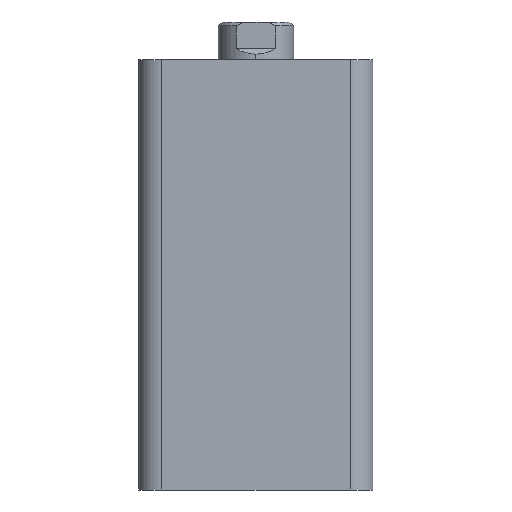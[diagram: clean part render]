
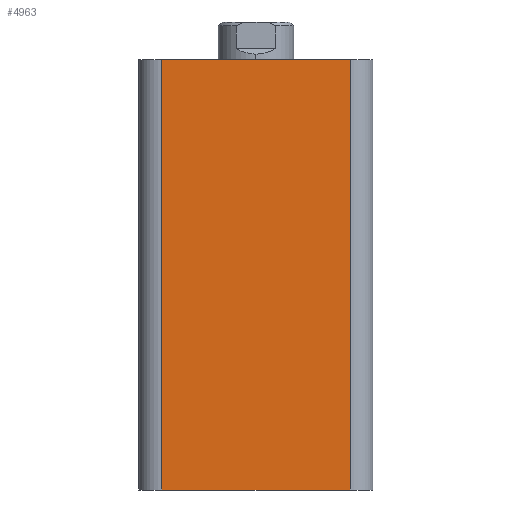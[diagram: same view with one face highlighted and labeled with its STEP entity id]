
A CAD part, left-side view. The second image highlights one B-rep face of the part: STEP entity #4963.
In plain terms, the highlighted planar face has unit normal (-1, 0, 0).
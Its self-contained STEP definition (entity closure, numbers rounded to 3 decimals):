
#62 = VECTOR ( 'NONE', #1963, 1000. ) ;
#64 = VECTOR ( 'NONE', #4467, 1000. ) ;
#65 = LINE ( 'NONE', #4466, #62 ) ;
#68 = LINE ( 'NONE', #4468, #64 ) ;
#79 = VECTOR ( 'NONE', #1918, 1000. ) ;
#83 = LINE ( 'NONE', #1922, #79 ) ;
#821 = AXIS2_PLACEMENT_3D ( 'NONE', #1728, #1737, #1738 ) ;
#982 = EDGE_CURVE ( 'NONE', #3496, #3528, #2794, .T. ) ;
#1405 = CARTESIAN_POINT ( 'NONE',  ( -31., -25., 0. ) ) ;
#1419 = CARTESIAN_POINT ( 'NONE',  ( -31., 25., 0. ) ) ;
#1591 = CARTESIAN_POINT ( 'NONE',  ( -31., 25., 114. ) ) ;
#1623 = CARTESIAN_POINT ( 'NONE',  ( -31., -25., 114. ) ) ;
#1728 = CARTESIAN_POINT ( 'NONE',  ( -31., 31., 114. ) ) ;
#1735 = PLANE ( 'NONE',  #821 ) ;
#1737 = DIRECTION ( 'NONE',  ( 1., 0., 0. ) ) ;
#1738 = DIRECTION ( 'NONE',  ( 0., 0., -1. ) ) ;
#1824 = CARTESIAN_POINT ( 'NONE',  ( -31., 31., 114. ) ) ;
#1837 = DIRECTION ( 'NONE',  ( 0., -1., 0. ) ) ;
#1918 = DIRECTION ( 'NONE',  ( 0., -1., 0. ) ) ;
#1922 = CARTESIAN_POINT ( 'NONE',  ( -31., 31., 0. ) ) ;
#1963 = DIRECTION ( 'NONE',  ( 0., 0., -1. ) ) ;
#2528 = EDGE_CURVE ( 'NONE', #3322, #3315, #83, .T. ) ;
#2538 = EDGE_CURVE ( 'NONE', #3315, #3528, #68, .T. ) ;
#2539 = EDGE_CURVE ( 'NONE', #3496, #3322, #65, .T. ) ;
#2790 = VECTOR ( 'NONE', #1837, 1000. ) ;
#2794 = LINE ( 'NONE', #1824, #2790 ) ;
#2840 = EDGE_LOOP ( 'NONE', ( #5050, #5051, #5052, #5053 ) ) ;
#3315 = VERTEX_POINT ( 'NONE', #1405 ) ;
#3322 = VERTEX_POINT ( 'NONE', #1419 ) ;
#3496 = VERTEX_POINT ( 'NONE', #1591 ) ;
#3528 = VERTEX_POINT ( 'NONE', #1623 ) ;
#3922 = FACE_OUTER_BOUND ( 'NONE', #2840, .T. ) ;
#4466 = CARTESIAN_POINT ( 'NONE',  ( -31., 25., 114. ) ) ;
#4467 = DIRECTION ( 'NONE',  ( 0., 0., 1. ) ) ;
#4468 = CARTESIAN_POINT ( 'NONE',  ( -31., -25., 114. ) ) ;
#4963 = ADVANCED_FACE ( 'NONE', ( #3922 ), #1735, .F. ) ;
#5050 = ORIENTED_EDGE ( 'NONE', *, *, #2528, .T. ) ;
#5051 = ORIENTED_EDGE ( 'NONE', *, *, #2538, .T. ) ;
#5052 = ORIENTED_EDGE ( 'NONE', *, *, #982, .F. ) ;
#5053 = ORIENTED_EDGE ( 'NONE', *, *, #2539, .T. ) ;
